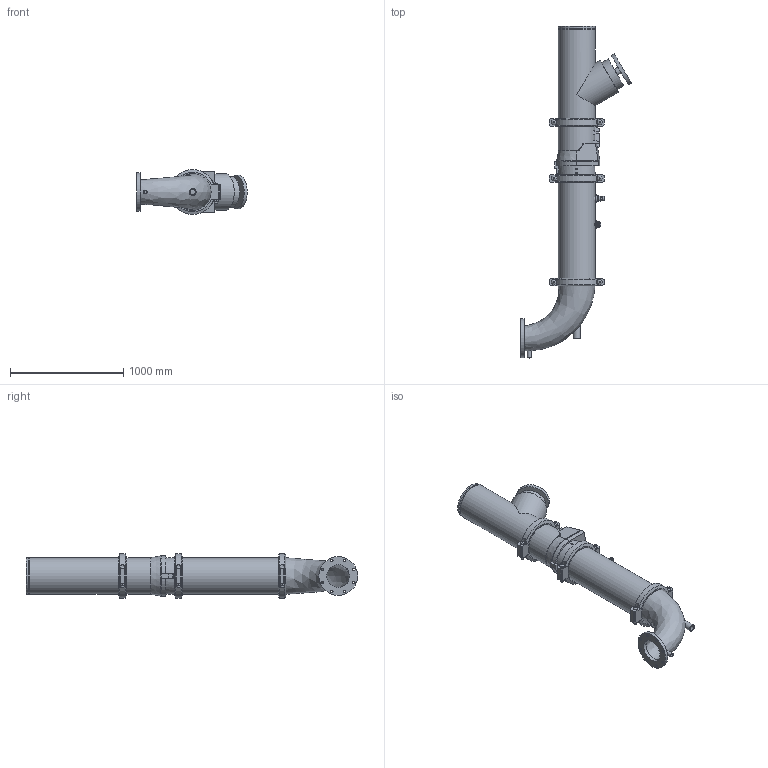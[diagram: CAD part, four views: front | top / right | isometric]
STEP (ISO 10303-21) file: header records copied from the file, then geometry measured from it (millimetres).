
FILE_DESCRIPTION(/* description */ ('VIC DVI PUMP DROP HORZ S/383 (OGSxFLG) (S/924-0.75)','CAx-IF Rec.Pracs.---Representation and Presentation of Product Manufacturing Information (PMI)---4.0---2014-10-13'),/* implementation_level */ '2;1');
FILE_NAME(/* name */ 'C:\Users\kkamble\AppData\Roaming\Autodesk\ApplicationPlugins\Victaulic.Temp\A821\CL 150_Series 383 (OGSxFLG)_924 (0.75)_12.0x08.0 (300x200).stp',/* time_stamp */ '2022-03-16T18:47:50+05:00',/* author */ ('kkamble'),/* organization */ ('Victaulic'),/* preprocessor_version */ 'ST-DEVELOPER v17.2',/* originating_system */ 'Autodesk Inventor 2019',/* authorisation */ '');
FILE_SCHEMA (('AP242_MANAGED_MODEL_BASED_3D_ENGINEERING_MIM_LF { 1 0 10303 442 1 1 4 }'));
Length unit declared in the file: inch
Products named in the file (8): 383_924 (0.75)-12.0x08.0; Pipe-12.0; 789-12.0; 779-12.0; 924-10.0x0.75; 923-10.0x0.75; R100F-12.0x08.0; 077-12.0
Assembly tree (9 placements, depth 2):
  383_924 (0.75)-12.0x08.0
    Pipe-12.0
    789-12.0
    779-12.0
    077-12.0  x3
    924-10.0x0.75
    923-10.0x0.75
    R100F-12.0x08.0
Bounding box: 977.9 x 2937 x 397 mm (x, y, z)
Volume: 65396924.7 mm3; surface area: 7629575.5 mm2
Topology: 9 solids, 15 shells, 435 faces, 1078 edges, 738 vertices
Faces by surface type: plane 257, cylinder 143, cone 17, bspline 12, torus 6
Full cylindrical faces by diameter (mm): 13.716 x4, 21.336 x1, 22.352 x8, 25.4 x12, 26.67 x3, 27.432 x6, 34.29 x1, 38.608 x1, 45.974 x4, 48.26 x1, 55.626 x2, 60.96 x2, 76.2 x1, 202.717 x1, 273.05 x1, 299.974 x1, 303.225 x2, 304.8 x2, 314.96 x3, 318.287 x7, 323.85 x18, 342.9 x1
Entity records: 11849 total; most frequent: CARTESIAN_POINT 3320, DIRECTION 1735, ORIENTED_EDGE 1576, EDGE_CURVE 788, AXIS2_PLACEMENT_3D 669, VERTEX_POINT 542, LINE 397, VECTOR 397
